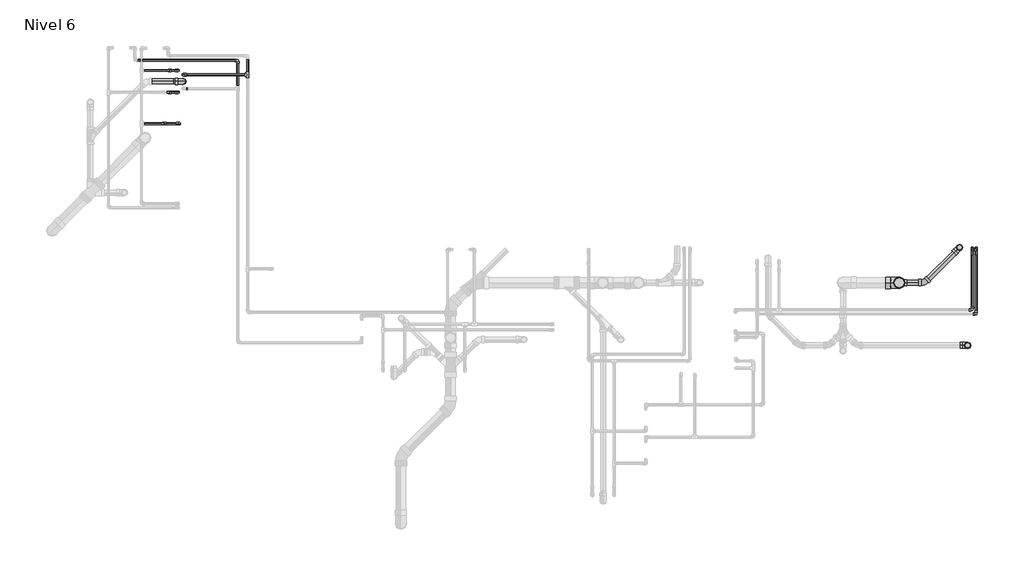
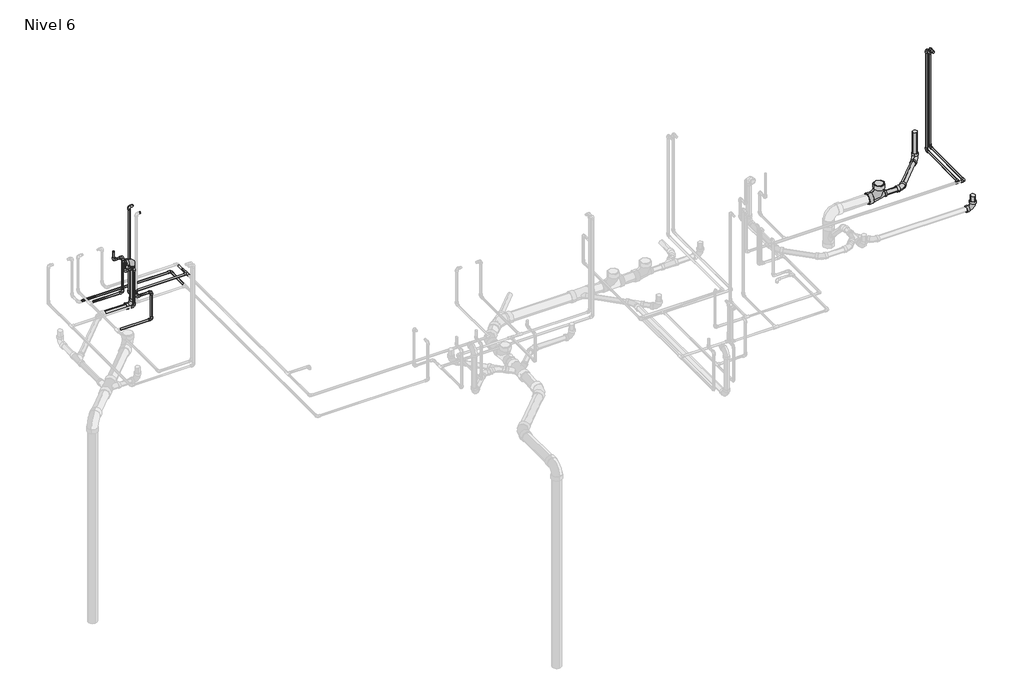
# One storey, part 7 of 11: 32 pipe segments, 25 pipe fittings.
"""IFC4 building model written with IfcOpenShell, lengths in millimetres."""

from ifc_helpers import new_model, si_unit, point, frame, frame_2d, origin, place, context, project, spatial, circle_curve, trimmed, segment, composite_curve, outline, extrude, transform, mapped, element, save
from components import pipe_fitting_ab418b84, pipe_fitting_44a425ca, m_codo_pvc_serie_40_9ad74631, m_codo_pvc_serie_40_ba05d404, m_codo_pvc_serie_40_dwv1_5c0ec739, m_codo_pvc_serie_40_dwv1_6f1a2495

model = new_model("IFC4")

# Units and contexts
model_context = context("Model", 3, world=origin())
ifc_project = project(units=[si_unit("LENGTHUNIT", "METRE", prefix="MILLI")], contexts=[model_context])

# Site, building, storey
site = spatial("IfcSite", under=ifc_project)
building = spatial("IfcBuilding", under=site)
storey = spatial("IfcBuildingStorey", under=building, Name="Nivel 6", Elevation=13400.0)

# Pipe fittings
placement = place(None, origin())
pipe_fitting_shape = pipe_fitting_ab418b84(model_context)
element("IfcPipeFitting", 1, ObjectType="M_Te - PVC - Serie 40 : Estándar", at=placement, inside=storey, context=model_context, shape_type="MappedRepresentation", body=[
    mapped(pipe_fitting_shape, transform((984.8834401, 8806.9732133, 13350.0), x_axis=(0.0, -1.0, 0.0), y_axis=(1.0, 0.0, 0.0), z_axis=(0.0, 0.0, 1.0))),
])
pipe_fitting_2_shape = pipe_fitting_44a425ca(model_context)
element("IfcPipeFitting", 2, ObjectType="M_Sanitario con te de reducción - PVC - Serie 40 - DWV : Estándar", at=placement, inside=storey, context=model_context, shape_type="MappedRepresentation", body=[
    mapped(pipe_fitting_2_shape, transform((8039.6967866, 6555.7039726, 13250.0), x_axis=(1.0, 0.0, 0.0), y_axis=(0.0, 0.0, -1.0), z_axis=(0.0, 1.0, 0.0))),
])
m_codo_pvc_serie_40_shape = m_codo_pvc_serie_40_9ad74631(model_context)
element("IfcPipeFitting", 3, ObjectType="M_Codo - PVC - Serie 40 : Estándar", at=placement, inside=storey, context=model_context, shape_type="MappedRepresentation", body=[
    mapped(m_codo_pvc_serie_40_shape, transform((879.8834401, 8963.3498981, 13320.0), x_axis=(0.0, 1.0, 0.0), y_axis=(-1.0, 0.0, 0.0), z_axis=(0.0, 0.0, 1.0))),
])
element("IfcPipeFitting", 4, ObjectType="M_Codo - PVC - Serie 40 : Estándar", at=placement, inside=storey, context=model_context, shape_type="MappedRepresentation", body=[
    mapped(m_codo_pvc_serie_40_shape, transform((68.6807861, 8276.8784649, 13700.0), x_axis=(0.0, 0.0, -1.0), y_axis=(1.0, 0.0, 0.0), z_axis=(0.0, -1.0, 0.0))),
])
element("IfcPipeFitting", 5, ObjectType="M_Codo - PVC - Serie 40 : Estándar", at=placement, inside=storey, context=model_context, shape_type="MappedRepresentation", body=[
    mapped(m_codo_pvc_serie_40_shape, transform((248.6807861, 8276.8784649, 13700.0), x_axis=(1.0, 0.0, 0.0), y_axis=(0.0, 0.0, -1.0), z_axis=(0.0, 1.0, 0.0))),
])
element("IfcPipeFitting", 6, ObjectType="M_Codo - PVC - Serie 40 : Estándar", at=placement, inside=storey, context=model_context, shape_type="MappedRepresentation", body=[
    mapped(m_codo_pvc_serie_40_shape, transform((248.6807861, 8276.8784649, 13350.0), x_axis=(0.0, 0.0, -1.0), y_axis=(-1.0, 0.0, 0.0), z_axis=(0.0, 1.0, 0.0))),
])
element("IfcPipeFitting", 7, ObjectType="M_Codo - PVC - Serie 40 : Estándar", at=placement, inside=storey, context=model_context, shape_type="MappedRepresentation", body=[
    mapped(m_codo_pvc_serie_40_shape, transform((125.0992366, 8853.0157349, 13800.0), x_axis=(0.0, 0.0, -1.0), y_axis=(1.0, 0.0, 0.0), z_axis=(0.0, -1.0, 0.0))),
])
element("IfcPipeFitting", 8, ObjectType="M_Codo - PVC - Serie 40 : Estándar", at=placement, inside=storey, context=model_context, shape_type="MappedRepresentation", body=[
    mapped(m_codo_pvc_serie_40_shape, transform((233.2242366, 8853.0157349, 13800.0), x_axis=(1.0, 0.0, 0.0), y_axis=(0.0, 0.0, -1.0), z_axis=(0.0, 1.0, 0.0))),
])
element("IfcPipeFitting", 9, ObjectType="M_Codo - PVC - Serie 40 : Estándar", at=placement, inside=storey, context=model_context, shape_type="MappedRepresentation", body=[
    mapped(m_codo_pvc_serie_40_shape, transform((233.2242366, 8853.0157349, 13350.0), x_axis=(0.0, 0.0, -1.0), y_axis=(-1.0, 0.0, 0.0), z_axis=(0.0, 1.0, 0.0))),
])
element("IfcPipeFitting", 10, ObjectType="M_Codo - PVC - Serie 40 : Estándar", at=placement, inside=storey, context=model_context, shape_type="MappedRepresentation", body=[
    mapped(m_codo_pvc_serie_40_shape, transform((233.8492366, 8616.2589015, 13320.0), x_axis=(0.0, 0.0, -1.0), y_axis=(-1.0, 0.0, 0.0), z_axis=(0.0, 1.0, 0.0))),
])
element("IfcPipeFitting", 11, ObjectType="M_Codo - PVC - Serie 40 : Estándar", at=placement, inside=storey, context=model_context, shape_type="MappedRepresentation", body=[
    mapped(m_codo_pvc_serie_40_shape, transform((8873.0126322, 6931.6711332, 13350.0), x_axis=(0.0, 1.0, 0.0), y_axis=(0.0, 0.0, 1.0), z_axis=(1.0, 0.0, 0.0))),
])
element("IfcPipeFitting", 12, ObjectType="M_Codo - PVC - Serie 40 : Estándar", at=placement, inside=storey, context=model_context, shape_type="MappedRepresentation", body=[
    mapped(m_codo_pvc_serie_40_shape, transform((8873.0126322, 6931.6711332, 14600.0), x_axis=(0.0, 0.0, 1.0), y_axis=(0.0, -1.0, 0.0), z_axis=(1.0, 0.0, 0.0))),
])
element("IfcPipeFitting", 13, ObjectType="M_Codo - PVC - Serie 40 : Estándar", at=placement, inside=storey, context=model_context, shape_type="MappedRepresentation", body=[
    mapped(m_codo_pvc_serie_40_shape, transform((8831.6896051, 6931.6711332, 13320.0), x_axis=(0.0, 1.0, 0.0), y_axis=(0.0, 0.0, 1.0), z_axis=(1.0, 0.0, 0.0))),
])
element("IfcPipeFitting", 14, ObjectType="M_Codo - PVC - Serie 40 : Estándar", at=placement, inside=storey, context=model_context, shape_type="MappedRepresentation", body=[
    mapped(m_codo_pvc_serie_40_shape, transform((8831.6896051, 6931.6711332, 14600.0), x_axis=(0.0, 0.0, 1.0), y_axis=(0.0, -1.0, 0.0), z_axis=(1.0, 0.0, 0.0))),
])
element("IfcPipeFitting", 15, ObjectType="M_Codo - PVC - Serie 40 : Estándar", at=placement, inside=storey, context=model_context, shape_type="MappedRepresentation", body=[
    mapped(m_codo_pvc_serie_40_shape, transform((8831.6896051, 6261.9268515, 13320.0), x_axis=(1.0, 0.0, 0.0), y_axis=(0.0, 1.0, 0.0), z_axis=(0.0, 0.0, 1.0))),
])
element("IfcPipeFitting", 16, ObjectType="M_Codo - PVC - Serie 40 : Estándar", at=placement, inside=storey, context=model_context, shape_type="MappedRepresentation", body=[
    mapped(m_codo_pvc_serie_40_shape, transform((8873.0126322, 6216.6711332, 13350.0), x_axis=(1.0, 0.0, 0.0), y_axis=(0.0, 1.0, 0.0), z_axis=(0.0, 0.0, 1.0))),
])
element("IfcPipeFitting", 17, ObjectType="M_Codo - PVC - Serie 40 : Estándar", at=placement, inside=storey, context=model_context, shape_type="MappedRepresentation", body=[
    mapped(m_codo_pvc_serie_40_shape, transform((286.7415228, 8806.9732133, 14450.0), x_axis=(-1.0, 0.0, 0.0), y_axis=(0.0, 0.0, -1.0), z_axis=(0.0, -1.0, 0.0))),
])
element("IfcPipeFitting", 18, ObjectType="M_Codo - PVC - Serie 40 : Estándar", at=placement, inside=storey, context=model_context, shape_type="MappedRepresentation", body=[
    mapped(m_codo_pvc_serie_40_shape, transform((286.7415228, 8806.9732133, 13350.0), x_axis=(0.0, 0.0, -1.0), y_axis=(1.0, 0.0, 0.0), z_axis=(0.0, -1.0, 0.0))),
])
m_codo_pvc_serie_40_2_shape = m_codo_pvc_serie_40_ba05d404(model_context)
element("IfcPipeFitting", 19, ObjectType="M_Codo - PVC - Serie 40 : Estándar", at=placement, inside=storey, context=model_context, shape_type="MappedRepresentation", body=[
    mapped(m_codo_pvc_serie_40_2_shape, transform((125.0992366, 8616.2589015, 13800.0), x_axis=(0.0, 0.0, -1.0), y_axis=(-1.0, 0.0, 0.0), z_axis=(0.0, 1.0, 0.0))),
])
element("IfcPipeFitting", 20, ObjectType="M_Codo - PVC - Serie 40 : Estándar", at=placement, inside=storey, context=model_context, shape_type="MappedRepresentation", body=[
    mapped(m_codo_pvc_serie_40_2_shape, transform((233.8492366, 8616.2589015, 13800.0), x_axis=(1.0, 0.0, 0.0), y_axis=(0.0, 0.0, 1.0), z_axis=(0.0, -1.0, 0.0))),
])
m_codo_pvc_serie_40_dwv1_shape = m_codo_pvc_serie_40_dwv1_5c0ec739(model_context)
element("IfcPipeFitting", 21, ObjectType="M_Codo - PVC - Serie 40 - DWV1 : Estándar 2", at=placement, inside=storey, context=model_context, shape_type="MappedRepresentation", body=[
    mapped(m_codo_pvc_serie_40_dwv1_shape, transform((285.0, 8734.6373182, 13810.6716548), x_axis=(1.0, 0.0, 0.0), y_axis=(0.0, 0.0, -1.0), z_axis=(0.0, 1.0, 0.0))),
])
element("IfcPipeFitting", 22, ObjectType="M_Codo - PVC - Serie 40 - DWV1 : Estándar 2", at=placement, inside=storey, context=model_context, shape_type="MappedRepresentation", body=[
    mapped(m_codo_pvc_serie_40_dwv1_shape, transform((285.0, 8734.6373182, 13250.0), x_axis=(0.0, 0.0, -1.0), y_axis=(-1.0, 0.0, 0.0), z_axis=(0.0, 1.0, 0.0))),
])
element("IfcPipeFitting", 23, ObjectType="M_Codo - PVC - Serie 40 - DWV1 : Estándar 2", at=placement, inside=storey, context=model_context, shape_type="MappedRepresentation", body=[
    mapped(m_codo_pvc_serie_40_dwv1_shape, transform((8694.3719899, 6937.5416345, 13250.0), x_axis=(0.7071067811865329, 0.7071067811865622, 0.0), y_axis=(0.0, 0.0, 1.0), z_axis=(0.7071067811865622, -0.7071067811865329, 0.0))),
])
element("IfcPipeFitting", 24, ObjectType="M_Codo - PVC - Serie 40 - DWV1 : Estándar 2", at=placement, inside=storey, context=model_context, shape_type="MappedRepresentation", body=[
    mapped(m_codo_pvc_serie_40_dwv1_shape, transform((8781.5089391, 5877.7956387, 13250.0), x_axis=(1.0, 0.0, 0.0), y_axis=(0.0, 0.0, 1.0), z_axis=(0.0, -1.0, 0.0))),
])
m_codo_pvc_serie_40_dwv1_2_shape = m_codo_pvc_serie_40_dwv1_6f1a2495(model_context)
element("IfcPipeFitting", 25, ObjectType="M_Codo - PVC - Serie 40 - DWV1 : Estándar 2", at=placement, inside=storey, context=model_context, shape_type="MappedRepresentation", body=[
    mapped(m_codo_pvc_serie_40_dwv1_2_shape, transform((8312.5343281, 6555.7039726, 13250.0), x_axis=(1.0, 0.0, 0.0), y_axis=(0.0, 1.0, 0.0), z_axis=(0.0, 0.0, 1.0))),
])

# Pipe segments
element("IfcPipeSegment", 26, ObjectType="Tuberia PVC Agua Fria", at=placement, inside=storey, context=model_context, shape_type="SweptSolid", body=[
    extrude(outline(composite_curve([segment(trimmed(circle_curve(frame_2d((8276.8784649, 13700.0)), 10.31875), [point((8266.5597149, 13700.0))], [point((8276.8784649, 13710.31875))], False, "CARTESIAN"), True, "CONTINUOUS"), segment(trimmed(circle_curve(frame_2d((8276.8784649, 13700.0)), 10.31875), [point((8276.8784649, 13710.31875))], [point((8287.1972149, 13700.0))], False, "CARTESIAN"), True, "CONTINUOUS"), segment(trimmed(circle_curve(frame_2d((8276.8784649, 13700.0)), 10.31875), [point((8287.1972149, 13700.0))], [point((8276.8784649, 13689.68125))], False, "CARTESIAN"), True, "CONTINUOUS"), segment(trimmed(circle_curve(frame_2d((8276.8784649, 13700.0)), 10.31875), [point((8276.8784649, 13689.68125))], [point((8266.5597149, 13700.0))], False, "CARTESIAN"), True, "CONTINUOUS")], self_intersect=False)), frame((102.0817861, 0.0, 0.0), z_axis=(1.0, 0.0, 0.0), x_axis=(0.0, 1.0, 0.0)), (0.0, 0.0, 1.0), 113.198),
])
element("IfcPipeSegment", 27, ObjectType="Tuberia PVC Agua Fria", at=placement, inside=storey, context=model_context, shape_type="SweptSolid", body=[
    extrude(outline(composite_curve([segment(trimmed(circle_curve(frame_2d((68.6807861, 8276.8784649)), 10.31875), [point((78.9995361, 8276.8784649))], [point((68.6807861, 8266.5597149))], False, "CARTESIAN"), True, "CONTINUOUS"), segment(trimmed(circle_curve(frame_2d((68.6807861, 8276.8784649)), 10.31875), [point((68.6807861, 8266.5597149))], [point((58.3620361, 8276.8784649))], False, "CARTESIAN"), True, "CONTINUOUS"), segment(trimmed(circle_curve(frame_2d((68.6807861, 8276.8784649)), 10.31875), [point((58.3620361, 8276.8784649))], [point((68.6807861, 8287.1972149))], False, "CARTESIAN"), True, "CONTINUOUS"), segment(trimmed(circle_curve(frame_2d((68.6807861, 8276.8784649)), 10.31875), [point((68.6807861, 8287.1972149))], [point((78.9995361, 8276.8784649))], False, "CARTESIAN"), True, "CONTINUOUS")], self_intersect=False)), frame((0.0, 0.0, 13733.401), z_axis=(0.0, 0.0, 1.0), x_axis=(1.0, 0.0, 0.0)), (0.0, 0.0, 1.0), 39.7562509),
])
element("IfcPipeSegment", 28, ObjectType="Tuberia PVC Agua Fria", at=placement, inside=storey, context=model_context, shape_type="SweptSolid", body=[
    extrude(outline(composite_curve([segment(trimmed(circle_curve(frame_2d((8276.8784649, 13350.0)), 10.31875), [point((8266.5597149, 13350.0))], [point((8276.8784649, 13360.31875))], False, "CARTESIAN"), True, "CONTINUOUS"), segment(trimmed(circle_curve(frame_2d((8276.8784649, 13350.0)), 10.31875), [point((8276.8784649, 13360.31875))], [point((8287.1972149, 13350.0))], False, "CARTESIAN"), True, "CONTINUOUS"), segment(trimmed(circle_curve(frame_2d((8276.8784649, 13350.0)), 10.31875), [point((8287.1972149, 13350.0))], [point((8276.8784649, 13339.68125))], False, "CARTESIAN"), True, "CONTINUOUS"), segment(trimmed(circle_curve(frame_2d((8276.8784649, 13350.0)), 10.31875), [point((8276.8784649, 13339.68125))], [point((8266.5597149, 13350.0))], False, "CARTESIAN"), True, "CONTINUOUS")], self_intersect=False)), frame((-133.2602782, 0.0, 0.0), z_axis=(1.0, 0.0, 0.0), x_axis=(0.0, 1.0, 0.0)), (0.0, 0.0, 1.0), 348.5400644),
])
element("IfcPipeSegment", 29, ObjectType="Tuberia PVC Agua Fria", at=placement, inside=storey, context=model_context, shape_type="SweptSolid", body=[
    extrude(outline(composite_curve([segment(trimmed(circle_curve(frame_2d((248.6807861, 8276.8784649)), 10.31875), [point((258.9995361, 8276.8784649))], [point((248.6807861, 8266.5597149))], False, "CARTESIAN"), True, "CONTINUOUS"), segment(trimmed(circle_curve(frame_2d((248.6807861, 8276.8784649)), 10.31875), [point((248.6807861, 8266.5597149))], [point((238.3620361, 8276.8784649))], False, "CARTESIAN"), True, "CONTINUOUS"), segment(trimmed(circle_curve(frame_2d((248.6807861, 8276.8784649)), 10.31875), [point((238.3620361, 8276.8784649))], [point((248.6807861, 8287.1972149))], False, "CARTESIAN"), True, "CONTINUOUS"), segment(trimmed(circle_curve(frame_2d((248.6807861, 8276.8784649)), 10.31875), [point((248.6807861, 8287.1972149))], [point((258.9995361, 8276.8784649))], False, "CARTESIAN"), True, "CONTINUOUS")], self_intersect=False)), frame((0.0, 0.0, 13383.401), z_axis=(0.0, 0.0, 1.0), x_axis=(1.0, 0.0, 0.0)), (0.0, 0.0, 1.0), 283.198),
])
element("IfcPipeSegment", 30, ObjectType="Tuberia PVC Agua Fria", at=placement, inside=storey, context=model_context, shape_type="SweptSolid", body=[
    extrude(outline(composite_curve([segment(trimmed(circle_curve(frame_2d((8853.0157349, 13800.0)), 10.31875), [point((8842.6969849, 13800.0))], [point((8853.0157349, 13810.31875))], False, "CARTESIAN"), True, "CONTINUOUS"), segment(trimmed(circle_curve(frame_2d((8853.0157349, 13800.0)), 10.31875), [point((8853.0157349, 13810.31875))], [point((8863.3344849, 13800.0))], False, "CARTESIAN"), True, "CONTINUOUS"), segment(trimmed(circle_curve(frame_2d((8853.0157349, 13800.0)), 10.31875), [point((8863.3344849, 13800.0))], [point((8853.0157349, 13789.68125))], False, "CARTESIAN"), True, "CONTINUOUS"), segment(trimmed(circle_curve(frame_2d((8853.0157349, 13800.0)), 10.31875), [point((8853.0157349, 13789.68125))], [point((8842.6969849, 13800.0))], False, "CARTESIAN"), True, "CONTINUOUS")], self_intersect=False)), frame((158.5002366, 0.0, 0.0), z_axis=(1.0, 0.0, 0.0), x_axis=(0.0, 1.0, 0.0)), (0.0, 0.0, 1.0), 41.323),
])
element("IfcPipeSegment", 31, ObjectType="Tuberia PVC Agua Fria", at=placement, inside=storey, context=model_context, shape_type="SweptSolid", body=[
    extrude(outline(composite_curve([segment(trimmed(circle_curve(frame_2d((125.0992366, 8853.0157349)), 10.31875), [point((135.4179866, 8853.0157349))], [point((125.0992366, 8842.6969849))], False, "CARTESIAN"), True, "CONTINUOUS"), segment(trimmed(circle_curve(frame_2d((125.0992366, 8853.0157349)), 10.31875), [point((125.0992366, 8842.6969849))], [point((114.7804866, 8853.0157349))], False, "CARTESIAN"), True, "CONTINUOUS"), segment(trimmed(circle_curve(frame_2d((125.0992366, 8853.0157349)), 10.31875), [point((114.7804866, 8853.0157349))], [point((125.0992366, 8863.3344849))], False, "CARTESIAN"), True, "CONTINUOUS"), segment(trimmed(circle_curve(frame_2d((125.0992366, 8853.0157349)), 10.31875), [point((125.0992366, 8863.3344849))], [point((135.4179866, 8853.0157349))], False, "CARTESIAN"), True, "CONTINUOUS")], self_intersect=False)), frame((0.0, 0.0, 13833.401), z_axis=(0.0, 0.0, 1.0), x_axis=(1.0, 0.0, 0.0)), (0.0, 0.0, 1.0), 74.0983614),
])
element("IfcPipeSegment", 32, ObjectType="Tuberia PVC Agua Fria", at=placement, inside=storey, context=model_context, shape_type="SweptSolid", body=[
    extrude(outline(composite_curve([segment(trimmed(circle_curve(frame_2d((8853.0157349, 13350.0)), 10.31875), [point((8842.6969849, 13350.0))], [point((8853.0157349, 13360.31875))], False, "CARTESIAN"), True, "CONTINUOUS"), segment(trimmed(circle_curve(frame_2d((8853.0157349, 13350.0)), 10.31875), [point((8853.0157349, 13360.31875))], [point((8863.3344849, 13350.0))], False, "CARTESIAN"), True, "CONTINUOUS"), segment(trimmed(circle_curve(frame_2d((8853.0157349, 13350.0)), 10.31875), [point((8863.3344849, 13350.0))], [point((8853.0157349, 13339.68125))], False, "CARTESIAN"), True, "CONTINUOUS"), segment(trimmed(circle_curve(frame_2d((8853.0157349, 13350.0)), 10.31875), [point((8853.0157349, 13339.68125))], [point((8842.6969849, 13350.0))], False, "CARTESIAN"), True, "CONTINUOUS")], self_intersect=False)), frame((-133.2602782, 0.0, 0.0), z_axis=(1.0, 0.0, 0.0), x_axis=(0.0, 1.0, 0.0)), (0.0, 0.0, 1.0), 333.0835149),
])
element("IfcPipeSegment", 33, ObjectType="Tuberia PVC Agua Fria", at=placement, inside=storey, context=model_context, shape_type="SweptSolid", body=[
    extrude(outline(composite_curve([segment(trimmed(circle_curve(frame_2d((233.2242366, 8853.0157349)), 10.31875), [point((243.5429866, 8853.0157349))], [point((233.2242366, 8842.6969849))], False, "CARTESIAN"), True, "CONTINUOUS"), segment(trimmed(circle_curve(frame_2d((233.2242366, 8853.0157349)), 10.31875), [point((233.2242366, 8842.6969849))], [point((222.9054866, 8853.0157349))], False, "CARTESIAN"), True, "CONTINUOUS"), segment(trimmed(circle_curve(frame_2d((233.2242366, 8853.0157349)), 10.31875), [point((222.9054866, 8853.0157349))], [point((233.2242366, 8863.3344849))], False, "CARTESIAN"), True, "CONTINUOUS"), segment(trimmed(circle_curve(frame_2d((233.2242366, 8853.0157349)), 10.31875), [point((233.2242366, 8863.3344849))], [point((243.5429866, 8853.0157349))], False, "CARTESIAN"), True, "CONTINUOUS")], self_intersect=False)), frame((0.0, 0.0, 13383.401), z_axis=(0.0, 0.0, 1.0), x_axis=(1.0, 0.0, 0.0)), (0.0, 0.0, 1.0), 383.198),
])
element("IfcPipeSegment", 34, ObjectType="Tuberia PVC VENTILACION", at=placement, inside=storey, context=model_context, shape_type="SweptSolid", body=[
    extrude(outline(composite_curve([segment(trimmed(circle_curve(frame_2d((6555.7039726, 13250.0)), 26.9875), [point((6528.7164726, 13250.0))], [point((6555.7039726, 13276.9875))], False, "CARTESIAN"), True, "CONTINUOUS"), segment(trimmed(circle_curve(frame_2d((6555.7039726, 13250.0)), 26.9875), [point((6555.7039726, 13276.9875))], [point((6582.6914726, 13250.0))], False, "CARTESIAN"), True, "CONTINUOUS"), segment(trimmed(circle_curve(frame_2d((6555.7039726, 13250.0)), 26.9875), [point((6582.6914726, 13250.0))], [point((6555.7039726, 13223.0125))], False, "CARTESIAN"), True, "CONTINUOUS"), segment(trimmed(circle_curve(frame_2d((6555.7039726, 13250.0)), 26.9875), [point((6555.7039726, 13223.0125))], [point((6528.7164726, 13250.0))], False, "CARTESIAN"), True, "CONTINUOUS")], self_intersect=False)), frame((8121.6263281, 0.0, 0.0), z_axis=(1.0, 0.0, 0.0), x_axis=(0.0, 1.0, 0.0)), (0.0, 0.0, 1.0), 130.4798125),
])
element("IfcPipeSegment", 35, ObjectType="Tuberia PVC VENTILACION", at=placement, inside=storey, context=model_context, shape_type="SweptSolid", body=[
    extrude(outline(composite_curve([segment(trimmed(circle_curve(frame_2d((0.0, 26.9875)), 26.9875), [point((26.9875001, 26.9875))], [point((0.0, 0.0))], False, "CARTESIAN"), True, "CONTINUOUS"), segment(trimmed(circle_curve(frame_2d((0.0, 26.9875)), 26.9875), [point((0.0, 0.0))], [point((-26.9875, 26.9875))], False, "CARTESIAN"), True, "CONTINUOUS"), segment(trimmed(circle_curve(frame_2d((0.0, 26.9875)), 26.9875), [point((-26.9875, 26.9875))], [point((0.0, 53.975))], False, "CARTESIAN"), True, "CONTINUOUS"), segment(trimmed(circle_curve(frame_2d((0.0, 26.9875)), 26.9875), [point((0.0, 53.975))], [point((26.9875001, 26.9875))], False, "CARTESIAN"), True, "CONTINUOUS")], self_intersect=False)), frame((8355.2635092, 6598.4331538, 13276.9875), z_axis=(0.7071067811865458, 0.7071067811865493, 0.0), x_axis=(0.7071067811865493, -0.7071067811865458, 0.0)), (0.0, 0.0, 1.0), 397.02975),
])
element("IfcPipeSegment", 36, ObjectType="Tuberia PVC VENTILACION", at=placement, inside=storey, context=model_context, shape_type="SweptSolid", body=[
    extrude(outline(composite_curve([segment(trimmed(circle_curve(frame_2d((8694.3719899, 6937.5416345)), 26.9875), [point((8721.3594899, 6937.5416345))], [point((8694.3719899, 6910.5541345))], False, "CARTESIAN"), True, "CONTINUOUS"), segment(trimmed(circle_curve(frame_2d((8694.3719899, 6937.5416345)), 26.9875), [point((8694.3719899, 6910.5541345))], [point((8667.3844899, 6937.5416345))], False, "CARTESIAN"), True, "CONTINUOUS"), segment(trimmed(circle_curve(frame_2d((8694.3719899, 6937.5416345)), 26.9875), [point((8667.3844899, 6937.5416345))], [point((8694.3719899, 6964.5291345))], False, "CARTESIAN"), True, "CONTINUOUS"), segment(trimmed(circle_curve(frame_2d((8694.3719899, 6937.5416345)), 26.9875), [point((8694.3719899, 6964.5291345))], [point((8721.3594899, 6937.5416345))], False, "CARTESIAN"), True, "CONTINUOUS")], self_intersect=False)), frame((0.0, 0.0, 13332.5420625), z_axis=(0.0, 0.0, 1.0), x_axis=(1.0, 0.0, 0.0)), (0.0, 0.0, 1.0), 267.4579375),
])
element("IfcPipeSegment", 37, ObjectType="Tuberia PVC Agua Fria", at=placement, inside=storey, context=model_context, shape_type="SweptSolid", body=[
    extrude(outline(composite_curve([segment(trimmed(circle_curve(frame_2d((13350.0, 8873.0126322)), 10.31875), [point((13350.0, 8883.3313822))], [point((13360.31875, 8873.0126322))], False, "CARTESIAN"), True, "CONTINUOUS"), segment(trimmed(circle_curve(frame_2d((13350.0, 8873.0126322)), 10.31875), [point((13360.31875, 8873.0126322))], [point((13350.0, 8862.6938822))], False, "CARTESIAN"), True, "CONTINUOUS"), segment(trimmed(circle_curve(frame_2d((13350.0, 8873.0126322)), 10.31875), [point((13350.0, 8862.6938822))], [point((13339.68125, 8873.0126322))], False, "CARTESIAN"), True, "CONTINUOUS"), segment(trimmed(circle_curve(frame_2d((13350.0, 8873.0126322)), 10.31875), [point((13339.68125, 8873.0126322))], [point((13350.0, 8883.3313822))], False, "CARTESIAN"), True, "CONTINUOUS")], self_intersect=False)), frame((0.0, 6250.0721332, 0.0), z_axis=(0.0, 1.0, 0.0), x_axis=(0.0, 0.0, 1.0)), (0.0, 0.0, 1.0), 648.198),
])
element("IfcPipeSegment", 38, ObjectType="Tuberia PVC Agua Fria", at=placement, inside=storey, context=model_context, shape_type="SweptSolid", body=[
    extrude(outline(composite_curve([segment(trimmed(circle_curve(frame_2d((14600.0, 8873.0126322)), 10.31875), [point((14600.0, 8862.6938822))], [point((14589.68125, 8873.0126322))], False, "CARTESIAN"), True, "CONTINUOUS"), segment(trimmed(circle_curve(frame_2d((14600.0, 8873.0126322)), 10.31875), [point((14589.68125, 8873.0126322))], [point((14600.0, 8883.3313822))], False, "CARTESIAN"), True, "CONTINUOUS"), segment(trimmed(circle_curve(frame_2d((14600.0, 8873.0126322)), 10.31875), [point((14600.0, 8883.3313822))], [point((14610.31875, 8873.0126322))], False, "CARTESIAN"), True, "CONTINUOUS"), segment(trimmed(circle_curve(frame_2d((14600.0, 8873.0126322)), 10.31875), [point((14610.31875, 8873.0126322))], [point((14600.0, 8862.6938822))], False, "CARTESIAN"), True, "CONTINUOUS")], self_intersect=False)), frame((0.0, 6856.6711332, 0.0), z_axis=(0.0, 1.0, 0.0), x_axis=(0.0, 0.0, 1.0)), (0.0, 0.0, 1.0), 41.599),
])
element("IfcPipeSegment", 39, ObjectType="Tuberia PVC Agua Fria", at=placement, inside=storey, context=model_context, shape_type="SweptSolid", body=[
    extrude(outline(composite_curve([segment(trimmed(circle_curve(frame_2d((8873.0126322, 6931.6711332)), 10.31875), [point((8862.6938822, 6931.6711332))], [point((8873.0126322, 6941.9898832))], False, "CARTESIAN"), True, "CONTINUOUS"), segment(trimmed(circle_curve(frame_2d((8873.0126322, 6931.6711332)), 10.31875), [point((8873.0126322, 6941.9898832))], [point((8883.3313822, 6931.6711332))], False, "CARTESIAN"), True, "CONTINUOUS"), segment(trimmed(circle_curve(frame_2d((8873.0126322, 6931.6711332)), 10.31875), [point((8883.3313822, 6931.6711332))], [point((8873.0126322, 6921.3523832))], False, "CARTESIAN"), True, "CONTINUOUS"), segment(trimmed(circle_curve(frame_2d((8873.0126322, 6931.6711332)), 10.31875), [point((8873.0126322, 6921.3523832))], [point((8862.6938822, 6931.6711332))], False, "CARTESIAN"), True, "CONTINUOUS")], self_intersect=False)), frame((0.0, 0.0, 13383.401), z_axis=(0.0, 0.0, 1.0), x_axis=(1.0, 0.0, 0.0)), (0.0, 0.0, 1.0), 1183.198),
])
element("IfcPipeSegment", 40, ObjectType="Tuberia PVC Agua Fria", at=placement, inside=storey, context=model_context, shape_type="SweptSolid", body=[
    extrude(outline(composite_curve([segment(trimmed(circle_curve(frame_2d((13350.0, 984.8834401)), 10.31875), [point((13350.0, 995.2021901))], [point((13360.31875, 984.8834401))], False, "CARTESIAN"), True, "CONTINUOUS"), segment(trimmed(circle_curve(frame_2d((13350.0, 984.8834401)), 10.31875), [point((13360.31875, 984.8834401))], [point((13350.0, 974.5646901))], False, "CARTESIAN"), True, "CONTINUOUS"), segment(trimmed(circle_curve(frame_2d((13350.0, 984.8834401)), 10.31875), [point((13350.0, 974.5646901))], [point((13339.68125, 984.8834401))], False, "CARTESIAN"), True, "CONTINUOUS"), segment(trimmed(circle_curve(frame_2d((13350.0, 984.8834401)), 10.31875), [point((13339.68125, 984.8834401))], [point((13350.0, 995.2021901))], False, "CARTESIAN"), True, "CONTINUOUS")], self_intersect=False)), frame((0.0, 8837.4333695, 0.0), z_axis=(0.0, 1.0, 0.0), x_axis=(0.0, 0.0, 1.0)), (0.0, 0.0, 1.0), 139.8232391),
])
element("IfcPipeSegment", 41, ObjectType="Tuberia PVC Agua Fria", at=placement, inside=storey, context=model_context, shape_type="SweptSolid", body=[
    extrude(outline(composite_curve([segment(trimmed(circle_curve(frame_2d((8806.9732133, 14450.0)), 10.31875), [point((8817.2919633, 14450.0))], [point((8806.9732133, 14439.68125))], False, "CARTESIAN"), True, "CONTINUOUS"), segment(trimmed(circle_curve(frame_2d((8806.9732133, 14450.0)), 10.31875), [point((8806.9732133, 14439.68125))], [point((8796.6544633, 14450.0))], False, "CARTESIAN"), True, "CONTINUOUS"), segment(trimmed(circle_curve(frame_2d((8806.9732133, 14450.0)), 10.31875), [point((8796.6544633, 14450.0))], [point((8806.9732133, 14460.31875))], False, "CARTESIAN"), True, "CONTINUOUS"), segment(trimmed(circle_curve(frame_2d((8806.9732133, 14450.0)), 10.31875), [point((8806.9732133, 14460.31875))], [point((8817.2919633, 14450.0))], False, "CARTESIAN"), True, "CONTINUOUS")], self_intersect=False)), frame((320.1425228, 0.0, 0.0), z_axis=(1.0, 0.0, 0.0), x_axis=(0.0, 1.0, 0.0)), (0.0, 0.0, 1.0), 12.849),
])
element("IfcPipeSegment", 42, ObjectType="Tuberia PVC Agua Fria", at=placement, inside=storey, context=model_context, shape_type="SweptSolid", body=[
    extrude(outline(composite_curve([segment(trimmed(circle_curve(frame_2d((8806.9732133, 13350.0)), 10.31875), [point((8817.2919633, 13350.0))], [point((8806.9732133, 13339.68125))], False, "CARTESIAN"), True, "CONTINUOUS"), segment(trimmed(circle_curve(frame_2d((8806.9732133, 13350.0)), 10.31875), [point((8806.9732133, 13339.68125))], [point((8796.6544633, 13350.0))], False, "CARTESIAN"), True, "CONTINUOUS"), segment(trimmed(circle_curve(frame_2d((8806.9732133, 13350.0)), 10.31875), [point((8796.6544633, 13350.0))], [point((8806.9732133, 13360.31875))], False, "CARTESIAN"), True, "CONTINUOUS"), segment(trimmed(circle_curve(frame_2d((8806.9732133, 13350.0)), 10.31875), [point((8806.9732133, 13360.31875))], [point((8817.2919633, 13350.0))], False, "CARTESIAN"), True, "CONTINUOUS")], self_intersect=False)), frame((320.1425228, 0.0, 0.0), z_axis=(1.0, 0.0, 0.0), x_axis=(0.0, 1.0, 0.0)), (0.0, 0.0, 1.0), 634.2807611),
])
element("IfcPipeSegment", 43, ObjectType="Tuberia PVC Agua Fria", at=placement, inside=storey, context=model_context, shape_type="SweptSolid", body=[
    extrude(outline(composite_curve([segment(trimmed(circle_curve(frame_2d((286.7415228, 8806.9732133)), 10.31875), [point((297.0602728, 8806.9732133))], [point((286.7415228, 8796.6544633))], False, "CARTESIAN"), True, "CONTINUOUS"), segment(trimmed(circle_curve(frame_2d((286.7415228, 8806.9732133)), 10.31875), [point((286.7415228, 8796.6544633))], [point((276.4227728, 8806.9732133))], False, "CARTESIAN"), True, "CONTINUOUS"), segment(trimmed(circle_curve(frame_2d((286.7415228, 8806.9732133)), 10.31875), [point((276.4227728, 8806.9732133))], [point((286.7415228, 8817.2919633))], False, "CARTESIAN"), True, "CONTINUOUS"), segment(trimmed(circle_curve(frame_2d((286.7415228, 8806.9732133)), 10.31875), [point((286.7415228, 8817.2919633))], [point((297.0602728, 8806.9732133))], False, "CARTESIAN"), True, "CONTINUOUS")], self_intersect=False)), frame((0.0, 0.0, 13383.401), z_axis=(0.0, 0.0, 1.0), x_axis=(1.0, 0.0, 0.0)), (0.0, 0.0, 1.0), 1033.198),
])
element("IfcPipeSegment", 44, ObjectType="Tuberia PVC Agua Caliente", at=placement, inside=storey, context=model_context, shape_type="SweptSolid", body=[
    extrude(outline(composite_curve([segment(trimmed(circle_curve(frame_2d((13320.0, 879.8834401)), 10.31875), [point((13320.0, 890.2021901))], [point((13330.31875, 879.8834401))], False, "CARTESIAN"), True, "CONTINUOUS"), segment(trimmed(circle_curve(frame_2d((13320.0, 879.8834401)), 10.31875), [point((13330.31875, 879.8834401))], [point((13320.0, 869.5646901))], False, "CARTESIAN"), True, "CONTINUOUS"), segment(trimmed(circle_curve(frame_2d((13320.0, 879.8834401)), 10.31875), [point((13320.0, 869.5646901))], [point((13309.68125, 879.8834401))], False, "CARTESIAN"), True, "CONTINUOUS"), segment(trimmed(circle_curve(frame_2d((13320.0, 879.8834401)), 10.31875), [point((13309.68125, 879.8834401))], [point((13320.0, 890.2021901))], False, "CARTESIAN"), True, "CONTINUOUS")], self_intersect=False)), frame((0.0, 8687.4333695, 0.0), z_axis=(0.0, 1.0, 0.0), x_axis=(0.0, 0.0, 1.0)), (0.0, 0.0, 1.0), 242.5155286),
])
element("IfcPipeSegment", 45, ObjectType="Tuberia PVC Agua Caliente", at=placement, inside=storey, context=model_context, shape_type="SweptSolid", body=[
    extrude(outline(composite_curve([segment(trimmed(circle_curve(frame_2d((8963.3498981, 13320.0)), 10.31875), [point((8973.6686481, 13320.0))], [point((8963.3498981, 13309.68125))], False, "CARTESIAN"), True, "CONTINUOUS"), segment(trimmed(circle_curve(frame_2d((8963.3498981, 13320.0)), 10.31875), [point((8963.3498981, 13309.68125))], [point((8953.0311481, 13320.0))], False, "CARTESIAN"), True, "CONTINUOUS"), segment(trimmed(circle_curve(frame_2d((8963.3498981, 13320.0)), 10.31875), [point((8953.0311481, 13320.0))], [point((8963.3498981, 13330.31875))], False, "CARTESIAN"), True, "CONTINUOUS"), segment(trimmed(circle_curve(frame_2d((8963.3498981, 13320.0)), 10.31875), [point((8963.3498981, 13330.31875))], [point((8973.6686481, 13320.0))], False, "CARTESIAN"), True, "CONTINUOUS")], self_intersect=False)), frame((-201.7155599, 0.0, 0.0), z_axis=(1.0, 0.0, 0.0), x_axis=(0.0, 1.0, 0.0)), (0.0, 0.0, 1.0), 1048.198),
])
element("IfcPipeSegment", 46, ObjectType="Tuberia PVC Agua Caliente", at=placement, inside=storey, context=model_context, shape_type="SweptSolid", body=[
    extrude(outline(composite_curve([segment(trimmed(circle_curve(frame_2d((8616.2589015, 13800.0)), 10.31875), [point((8605.9401515, 13800.0))], [point((8616.2589015, 13810.31875))], False, "CARTESIAN"), True, "CONTINUOUS"), segment(trimmed(circle_curve(frame_2d((8616.2589015, 13800.0)), 10.31875), [point((8616.2589015, 13810.31875))], [point((8626.5776515, 13800.0))], False, "CARTESIAN"), True, "CONTINUOUS"), segment(trimmed(circle_curve(frame_2d((8616.2589015, 13800.0)), 10.31875), [point((8626.5776515, 13800.0))], [point((8616.2589015, 13789.68125))], False, "CARTESIAN"), True, "CONTINUOUS"), segment(trimmed(circle_curve(frame_2d((8616.2589015, 13800.0)), 10.31875), [point((8616.2589015, 13789.68125))], [point((8605.9401515, 13800.0))], False, "CARTESIAN"), True, "CONTINUOUS")], self_intersect=False)), frame((158.5002366, 0.0, 0.0), z_axis=(1.0, 0.0, 0.0), x_axis=(0.0, 1.0, 0.0)), (0.0, 0.0, 1.0), 41.948),
])
element("IfcPipeSegment", 47, ObjectType="Tuberia PVC Agua Caliente", at=placement, inside=storey, context=model_context, shape_type="SweptSolid", body=[
    extrude(outline(composite_curve([segment(trimmed(circle_curve(frame_2d((125.0992366, 8616.2589015)), 10.31875), [point((135.4179866, 8616.2589015))], [point((125.0992366, 8605.9401515))], False, "CARTESIAN"), True, "CONTINUOUS"), segment(trimmed(circle_curve(frame_2d((125.0992366, 8616.2589015)), 10.31875), [point((125.0992366, 8605.9401515))], [point((114.7804866, 8616.2589015))], False, "CARTESIAN"), True, "CONTINUOUS"), segment(trimmed(circle_curve(frame_2d((125.0992366, 8616.2589015)), 10.31875), [point((114.7804866, 8616.2589015))], [point((125.0992366, 8626.5776515))], False, "CARTESIAN"), True, "CONTINUOUS"), segment(trimmed(circle_curve(frame_2d((125.0992366, 8616.2589015)), 10.31875), [point((125.0992366, 8626.5776515))], [point((135.4179866, 8616.2589015))], False, "CARTESIAN"), True, "CONTINUOUS")], self_intersect=False)), frame((0.0, 0.0, 13833.401), z_axis=(0.0, 0.0, 1.0), x_axis=(1.0, 0.0, 0.0)), (0.0, 0.0, 1.0), 74.0983614),
])
element("IfcPipeSegment", 48, ObjectType="Tuberia PVC Agua Caliente", at=placement, inside=storey, context=model_context, shape_type="SweptSolid", body=[
    extrude(outline(composite_curve([segment(trimmed(circle_curve(frame_2d((233.8492366, 8616.2589015)), 10.31875), [point((244.1679866, 8616.2589015))], [point((233.8492366, 8605.9401515))], False, "CARTESIAN"), True, "CONTINUOUS"), segment(trimmed(circle_curve(frame_2d((233.8492366, 8616.2589015)), 10.31875), [point((233.8492366, 8605.9401515))], [point((223.5304866, 8616.2589015))], False, "CARTESIAN"), True, "CONTINUOUS"), segment(trimmed(circle_curve(frame_2d((233.8492366, 8616.2589015)), 10.31875), [point((223.5304866, 8616.2589015))], [point((233.8492366, 8626.5776515))], False, "CARTESIAN"), True, "CONTINUOUS"), segment(trimmed(circle_curve(frame_2d((233.8492366, 8616.2589015)), 10.31875), [point((233.8492366, 8626.5776515))], [point((244.1679866, 8616.2589015))], False, "CARTESIAN"), True, "CONTINUOUS")], self_intersect=False)), frame((0.0, 0.0, 13353.401), z_axis=(0.0, 0.0, 1.0), x_axis=(1.0, 0.0, 0.0)), (0.0, 0.0, 1.0), 413.198),
])
element("IfcPipeSegment", 49, ObjectType="Tuberia PVC Agua Caliente", at=placement, inside=storey, context=model_context, shape_type="SweptSolid", body=[
    extrude(outline(composite_curve([segment(trimmed(circle_curve(frame_2d((13320.0, 8831.6896051)), 10.31875), [point((13320.0, 8842.0083551))], [point((13330.31875, 8831.6896051))], False, "CARTESIAN"), True, "CONTINUOUS"), segment(trimmed(circle_curve(frame_2d((13320.0, 8831.6896051)), 10.31875), [point((13330.31875, 8831.6896051))], [point((13320.0, 8821.3708551))], False, "CARTESIAN"), True, "CONTINUOUS"), segment(trimmed(circle_curve(frame_2d((13320.0, 8831.6896051)), 10.31875), [point((13320.0, 8821.3708551))], [point((13309.68125, 8831.6896051))], False, "CARTESIAN"), True, "CONTINUOUS"), segment(trimmed(circle_curve(frame_2d((13320.0, 8831.6896051)), 10.31875), [point((13309.68125, 8831.6896051))], [point((13320.0, 8842.0083551))], False, "CARTESIAN"), True, "CONTINUOUS")], self_intersect=False)), frame((0.0, 6295.3278515, 0.0), z_axis=(0.0, 1.0, 0.0), x_axis=(0.0, 0.0, 1.0)), (0.0, 0.0, 1.0), 602.9422818),
])
element("IfcPipeSegment", 50, ObjectType="Tuberia PVC Agua Caliente", at=placement, inside=storey, context=model_context, shape_type="SweptSolid", body=[
    extrude(outline(composite_curve([segment(trimmed(circle_curve(frame_2d((14600.0, 8831.6896051)), 10.31875), [point((14600.0, 8821.3708551))], [point((14589.68125, 8831.6896051))], False, "CARTESIAN"), True, "CONTINUOUS"), segment(trimmed(circle_curve(frame_2d((14600.0, 8831.6896051)), 10.31875), [point((14589.68125, 8831.6896051))], [point((14600.0, 8842.0083551))], False, "CARTESIAN"), True, "CONTINUOUS"), segment(trimmed(circle_curve(frame_2d((14600.0, 8831.6896051)), 10.31875), [point((14600.0, 8842.0083551))], [point((14610.31875, 8831.6896051))], False, "CARTESIAN"), True, "CONTINUOUS"), segment(trimmed(circle_curve(frame_2d((14600.0, 8831.6896051)), 10.31875), [point((14610.31875, 8831.6896051))], [point((14600.0, 8821.3708551))], False, "CARTESIAN"), True, "CONTINUOUS")], self_intersect=False)), frame((0.0, 6856.6711332, 0.0), z_axis=(0.0, 1.0, 0.0), x_axis=(0.0, 0.0, 1.0)), (0.0, 0.0, 1.0), 41.599),
])
element("IfcPipeSegment", 51, ObjectType="Tuberia PVC Agua Caliente", at=placement, inside=storey, context=model_context, shape_type="SweptSolid", body=[
    extrude(outline(composite_curve([segment(trimmed(circle_curve(frame_2d((8831.6896051, 6931.6711332)), 10.31875), [point((8821.3708551, 6931.6711332))], [point((8831.6896051, 6941.9898832))], False, "CARTESIAN"), True, "CONTINUOUS"), segment(trimmed(circle_curve(frame_2d((8831.6896051, 6931.6711332)), 10.31875), [point((8831.6896051, 6941.9898832))], [point((8842.0083551, 6931.6711332))], False, "CARTESIAN"), True, "CONTINUOUS"), segment(trimmed(circle_curve(frame_2d((8831.6896051, 6931.6711332)), 10.31875), [point((8842.0083551, 6931.6711332))], [point((8831.6896051, 6921.3523832))], False, "CARTESIAN"), True, "CONTINUOUS"), segment(trimmed(circle_curve(frame_2d((8831.6896051, 6931.6711332)), 10.31875), [point((8831.6896051, 6921.3523832))], [point((8821.3708551, 6931.6711332))], False, "CARTESIAN"), True, "CONTINUOUS")], self_intersect=False)), frame((0.0, 0.0, 13353.401), z_axis=(0.0, 0.0, 1.0), x_axis=(1.0, 0.0, 0.0)), (0.0, 0.0, 1.0), 1213.198),
])
element("IfcPipeSegment", 52, ObjectType="Tuberia PVC Agua Caliente", at=placement, inside=storey, context=model_context, shape_type="SweptSolid", body=[
    extrude(outline(composite_curve([segment(trimmed(circle_curve(frame_2d((8656.9732133, 14450.0)), 10.31875), [point((8667.2919633, 14450.0))], [point((8656.9732133, 14439.68125))], False, "CARTESIAN"), True, "CONTINUOUS"), segment(trimmed(circle_curve(frame_2d((8656.9732133, 14450.0)), 10.31875), [point((8656.9732133, 14439.68125))], [point((8646.6544633, 14450.0))], False, "CARTESIAN"), True, "CONTINUOUS"), segment(trimmed(circle_curve(frame_2d((8656.9732133, 14450.0)), 10.31875), [point((8646.6544633, 14450.0))], [point((8656.9732133, 14460.31875))], False, "CARTESIAN"), True, "CONTINUOUS"), segment(trimmed(circle_curve(frame_2d((8656.9732133, 14450.0)), 10.31875), [point((8656.9732133, 14460.31875))], [point((8667.2919633, 14450.0))], False, "CARTESIAN"), True, "CONTINUOUS")], self_intersect=False)), frame((320.1425228, 0.0, 0.0), z_axis=(1.0, 0.0, 0.0), x_axis=(0.0, 1.0, 0.0)), (0.0, 0.0, 1.0), 12.849),
])
element("IfcPipeSegment", 53, ObjectType="Tuberia PVC Sanitario", at=placement, inside=storey, context=model_context, shape_type="SweptSolid", body=[
    extrude(outline(composite_curve([segment(trimmed(circle_curve(frame_2d((8734.6373182, 13810.6716548)), 26.9875), [point((8707.6498182, 13810.6716548))], [point((8734.6373182, 13837.6591548))], False, "CARTESIAN"), True, "CONTINUOUS"), segment(trimmed(circle_curve(frame_2d((8734.6373182, 13810.6716548)), 26.9875), [point((8734.6373182, 13837.6591548))], [point((8761.6248182, 13810.6716548))], False, "CARTESIAN"), True, "CONTINUOUS"), segment(trimmed(circle_curve(frame_2d((8734.6373182, 13810.6716548)), 26.9875), [point((8761.6248182, 13810.6716548))], [point((8734.6373182, 13783.6841548))], False, "CARTESIAN"), True, "CONTINUOUS"), segment(trimmed(circle_curve(frame_2d((8734.6373182, 13810.6716548)), 26.9875), [point((8734.6373182, 13783.6841548))], [point((8707.6498182, 13810.6716548))], False, "CARTESIAN"), True, "CONTINUOUS")], self_intersect=False)), frame((185.0, 0.0, 0.0), z_axis=(1.0, 0.0, 0.0), x_axis=(0.0, 1.0, 0.0)), (0.0, 0.0, 1.0), 17.4579375),
])
element("IfcPipeSegment", 54, ObjectType="Tuberia PVC Sanitario", at=placement, inside=storey, context=model_context, shape_type="SweptSolid", body=[
    extrude(outline(composite_curve([segment(trimmed(circle_curve(frame_2d((8734.6373182, 13250.0)), 26.9875), [point((8761.6248182, 13250.0))], [point((8734.6373182, 13223.0125))], False, "CARTESIAN"), True, "CONTINUOUS"), segment(trimmed(circle_curve(frame_2d((8734.6373182, 13250.0)), 26.9875), [point((8734.6373182, 13223.0125))], [point((8707.6498182, 13250.0))], False, "CARTESIAN"), True, "CONTINUOUS"), segment(trimmed(circle_curve(frame_2d((8734.6373182, 13250.0)), 26.9875), [point((8707.6498182, 13250.0))], [point((8734.6373182, 13276.9875))], False, "CARTESIAN"), True, "CONTINUOUS"), segment(trimmed(circle_curve(frame_2d((8734.6373182, 13250.0)), 26.9875), [point((8734.6373182, 13276.9875))], [point((8761.6248182, 13250.0))], False, "CARTESIAN"), True, "CONTINUOUS")], self_intersect=False)), frame((-54.5718125, 0.0, 0.0), z_axis=(1.0, 0.0, 0.0), x_axis=(0.0, 1.0, 0.0)), (0.0, 0.0, 1.0), 257.02975),
])
element("IfcPipeSegment", 55, ObjectType="Tuberia PVC Sanitario", at=placement, inside=storey, context=model_context, shape_type="SweptSolid", body=[
    extrude(outline(composite_curve([segment(trimmed(circle_curve(frame_2d((285.0, 8734.6373182)), 26.9875), [point((311.9875, 8734.6373182))], [point((285.0, 8707.6498182))], False, "CARTESIAN"), True, "CONTINUOUS"), segment(trimmed(circle_curve(frame_2d((285.0, 8734.6373182)), 26.9875), [point((285.0, 8707.6498182))], [point((258.0125, 8734.6373182))], False, "CARTESIAN"), True, "CONTINUOUS"), segment(trimmed(circle_curve(frame_2d((285.0, 8734.6373182)), 26.9875), [point((258.0125, 8734.6373182))], [point((285.0, 8761.6248182))], False, "CARTESIAN"), True, "CONTINUOUS"), segment(trimmed(circle_curve(frame_2d((285.0, 8734.6373182)), 26.9875), [point((285.0, 8761.6248182))], [point((311.9875, 8734.6373182))], False, "CARTESIAN"), True, "CONTINUOUS")], self_intersect=False)), frame((0.0, 0.0, 13332.5420625), z_axis=(0.0, 0.0, 1.0), x_axis=(1.0, 0.0, 0.0)), (0.0, 0.0, 1.0), 395.5875298),
])
element("IfcPipeSegment", 56, ObjectType="Tuberia PVC Sanitario", at=placement, inside=storey, context=model_context, shape_type="SweptSolid", body=[
    extrude(outline(composite_curve([segment(trimmed(circle_curve(frame_2d((8039.6967866, 6555.7039726)), 52.3875), [point((8092.0842866, 6555.7039726))], [point((8039.6967866, 6503.3164726))], False, "CARTESIAN"), True, "CONTINUOUS"), segment(trimmed(circle_curve(frame_2d((8039.6967866, 6555.7039726)), 52.3875), [point((8039.6967866, 6503.3164726))], [point((7987.3092866, 6555.7039726))], False, "CARTESIAN"), True, "CONTINUOUS"), segment(trimmed(circle_curve(frame_2d((8039.6967866, 6555.7039726)), 52.3875), [point((7987.3092866, 6555.7039726))], [point((8039.6967866, 6608.0914726))], False, "CARTESIAN"), True, "CONTINUOUS"), segment(trimmed(circle_curve(frame_2d((8039.6967866, 6555.7039726)), 52.3875), [point((8039.6967866, 6608.0914726))], [point((8092.0842866, 6555.7039726))], False, "CARTESIAN"), True, "CONTINUOUS")], self_intersect=False)), frame((0.0, 0.0, 13396.8159687), z_axis=(0.0, 0.0, 1.0), x_axis=(1.0, 0.0, 0.0)), (0.0, 0.0, 1.0), 3.1840312),
])
element("IfcPipeSegment", 57, ObjectType="Tuberia PVC Sanitario", at=placement, inside=storey, context=model_context, shape_type="SweptSolid", body=[
    extrude(outline(composite_curve([segment(trimmed(circle_curve(frame_2d((8781.5089391, 5877.7956387)), 26.9875), [point((8754.5214391, 5877.7956387))], [point((8781.5089391, 5904.7831387))], False, "CARTESIAN"), True, "CONTINUOUS"), segment(trimmed(circle_curve(frame_2d((8781.5089391, 5877.7956387)), 26.9875), [point((8781.5089391, 5904.7831387))], [point((8808.4964391, 5877.7956387))], False, "CARTESIAN"), True, "CONTINUOUS"), segment(trimmed(circle_curve(frame_2d((8781.5089391, 5877.7956387)), 26.9875), [point((8808.4964391, 5877.7956387))], [point((8781.5089391, 5850.8081387))], False, "CARTESIAN"), True, "CONTINUOUS"), segment(trimmed(circle_curve(frame_2d((8781.5089391, 5877.7956387)), 26.9875), [point((8781.5089391, 5850.8081387))], [point((8754.5214391, 5877.7956387))], False, "CARTESIAN"), True, "CONTINUOUS")], self_intersect=False)), frame((0.0, 0.0, 13332.5420625), z_axis=(0.0, 0.0, 1.0), x_axis=(1.0, 0.0, 0.0)), (0.0, 0.0, 1.0), 67.4579375),
])

save(model, "model.ifc")
